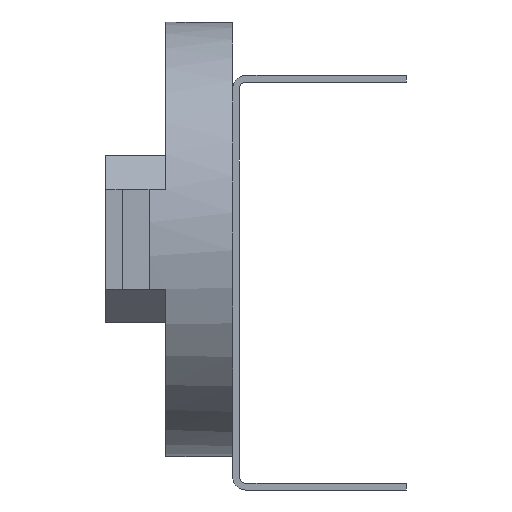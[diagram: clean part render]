
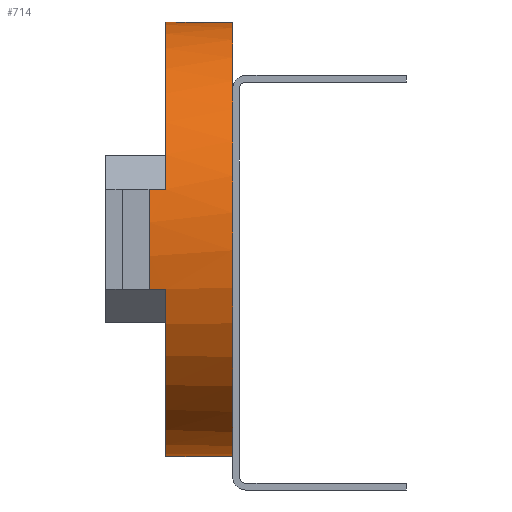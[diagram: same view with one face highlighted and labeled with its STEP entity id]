
A CAD part, left-side view. The second image highlights one B-rep face of the part: STEP entity #714.
In plain terms, the highlighted cylindrical face has radius 65 mm (diameter 130 mm), a partial arc.
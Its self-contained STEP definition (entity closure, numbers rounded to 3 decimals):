
#18 = CIRCLE ( 'NONE', #787, 65. ) ;
#34 = CARTESIAN_POINT ( 'NONE',  ( -123.246, 27., 28. ) ) ;
#39 = VECTOR ( 'NONE', #1031, 1000. ) ;
#41 = EDGE_CURVE ( 'NONE', #104, #112, #1221, .T. ) ;
#84 = AXIS2_PLACEMENT_3D ( 'NONE', #308, #829, #1348 ) ;
#100 = ORIENTED_EDGE ( 'NONE', *, *, #1010, .F. ) ;
#104 = VERTEX_POINT ( 'NONE', #978 ) ;
#106 = DIRECTION ( 'NONE',  ( 0., 0., 1. ) ) ;
#112 = VERTEX_POINT ( 'NONE', #354 ) ;
#113 = ORIENTED_EDGE ( 'NONE', *, *, #950, .F. ) ;
#124 = LINE ( 'NONE', #336, #789 ) ;
#136 = AXIS2_PLACEMENT_3D ( 'NONE', #758, #1082, #1245 ) ;
#170 = DIRECTION ( 'NONE',  ( 0., 0., 1. ) ) ;
#201 = VERTEX_POINT ( 'NONE', #447 ) ;
#219 = CARTESIAN_POINT ( 'NONE',  ( 0., 22., 38. ) ) ;
#225 = CARTESIAN_POINT ( 'NONE',  ( -123.246, 27., -2. ) ) ;
#250 = AXIS2_PLACEMENT_3D ( 'NONE', #1105, #1234, #170 ) ;
#252 = AXIS2_PLACEMENT_3D ( 'NONE', #1088, #495, #1214 ) ;
#269 = CARTESIAN_POINT ( 'NONE',  ( -123.246, 22., 28. ) ) ;
#286 = CIRCLE ( 'NONE', #1118, 65. ) ;
#308 = CARTESIAN_POINT ( 'NONE',  ( -60., 2., 13. ) ) ;
#318 = VERTEX_POINT ( 'NONE', #219 ) ;
#324 = DIRECTION ( 'NONE',  ( 0., 0., 1. ) ) ;
#336 = CARTESIAN_POINT ( 'NONE',  ( 0., 22., 38. ) ) ;
#354 = CARTESIAN_POINT ( 'NONE',  ( -123.246, 22., -2. ) ) ;
#362 = VERTEX_POINT ( 'NONE', #537 ) ;
#380 = LINE ( 'NONE', #34, #514 ) ;
#429 = CARTESIAN_POINT ( 'NONE',  ( -13.096, 2., 58. ) ) ;
#447 = CARTESIAN_POINT ( 'NONE',  ( -90., 2., -44.663 ) ) ;
#484 = ORIENTED_EDGE ( 'NONE', *, *, #506, .T. ) ;
#493 = LINE ( 'NONE', #738, #1392 ) ;
#495 = DIRECTION ( 'NONE',  ( 0., 1., 0. ) ) ;
#506 = EDGE_CURVE ( 'NONE', #644, #201, #18, .T. ) ;
#514 = VECTOR ( 'NONE', #1378, 1000. ) ;
#522 = CARTESIAN_POINT ( 'NONE',  ( -123.246, 27., -2. ) ) ;
#534 = DIRECTION ( 'NONE',  ( 0., -1., 0. ) ) ;
#537 = CARTESIAN_POINT ( 'NONE',  ( 0., 2., 38. ) ) ;
#548 = CARTESIAN_POINT ( 'NONE',  ( -60., 2., 13. ) ) ;
#577 = EDGE_CURVE ( 'NONE', #318, #362, #124, .T. ) ;
#586 = EDGE_CURVE ( 'NONE', #720, #734, #796, .T. ) ;
#601 = VERTEX_POINT ( 'NONE', #429 ) ;
#644 = VERTEX_POINT ( 'NONE', #1422 ) ;
#661 = EDGE_CURVE ( 'NONE', #601, #362, #1056, .T. ) ;
#685 = ORIENTED_EDGE ( 'NONE', *, *, #833, .T. ) ;
#691 = DIRECTION ( 'NONE',  ( 0., 1., 0. ) ) ;
#714 = ADVANCED_FACE ( 'NONE', ( #1307 ), #914, .T. ) ;
#720 = VERTEX_POINT ( 'NONE', #522 ) ;
#734 = VERTEX_POINT ( 'NONE', #778 ) ;
#738 = CARTESIAN_POINT ( 'NONE',  ( 0., 22., -12. ) ) ;
#758 = CARTESIAN_POINT ( 'NONE',  ( -60., 22., 13. ) ) ;
#778 = CARTESIAN_POINT ( 'NONE',  ( -123.246, 27., 28. ) ) ;
#787 = AXIS2_PLACEMENT_3D ( 'NONE', #548, #691, #106 ) ;
#789 = VECTOR ( 'NONE', #534, 1000. ) ;
#796 = CIRCLE ( 'NONE', #252, 65. ) ;
#829 = DIRECTION ( 'NONE',  ( 0., 1., 0. ) ) ;
#833 = EDGE_CURVE ( 'NONE', #104, #644, #493, .T. ) ;
#837 = VERTEX_POINT ( 'NONE', #269 ) ;
#856 = DIRECTION ( 'NONE',  ( 0., -1., 0. ) ) ;
#914 = CYLINDRICAL_SURFACE ( 'NONE', #944, 65. ) ;
#944 = AXIS2_PLACEMENT_3D ( 'NONE', #1302, #856, #1417 ) ;
#950 = EDGE_CURVE ( 'NONE', #837, #318, #1244, .T. ) ;
#978 = CARTESIAN_POINT ( 'NONE',  ( 0., 22., -12. ) ) ;
#1001 = CARTESIAN_POINT ( 'NONE',  ( -60., 2., 13. ) ) ;
#1010 = EDGE_CURVE ( 'NONE', #734, #837, #380, .T. ) ;
#1016 = LINE ( 'NONE', #225, #39 ) ;
#1031 = DIRECTION ( 'NONE',  ( 0., -1., 0. ) ) ;
#1047 = ORIENTED_EDGE ( 'NONE', *, *, #661, .T. ) ;
#1056 = CIRCLE ( 'NONE', #84, 65. ) ;
#1060 = ORIENTED_EDGE ( 'NONE', *, *, #1229, .T. ) ;
#1062 = ORIENTED_EDGE ( 'NONE', *, *, #41, .F. ) ;
#1082 = DIRECTION ( 'NONE',  ( 0., 1., 0. ) ) ;
#1088 = CARTESIAN_POINT ( 'NONE',  ( -60., 27., 13. ) ) ;
#1105 = CARTESIAN_POINT ( 'NONE',  ( -60., 22., 13. ) ) ;
#1118 = AXIS2_PLACEMENT_3D ( 'NONE', #1001, #1165, #324 ) ;
#1138 = ORIENTED_EDGE ( 'NONE', *, *, #1199, .T. ) ;
#1162 = DIRECTION ( 'NONE',  ( 0., -1., 0. ) ) ;
#1165 = DIRECTION ( 'NONE',  ( 0., 1., 0. ) ) ;
#1199 = EDGE_CURVE ( 'NONE', #720, #112, #1016, .T. ) ;
#1214 = DIRECTION ( 'NONE',  ( 0., 0., -1. ) ) ;
#1221 = CIRCLE ( 'NONE', #136, 65. ) ;
#1223 = ORIENTED_EDGE ( 'NONE', *, *, #577, .F. ) ;
#1229 = EDGE_CURVE ( 'NONE', #201, #601, #286, .T. ) ;
#1234 = DIRECTION ( 'NONE',  ( 0., 1., 0. ) ) ;
#1240 = ORIENTED_EDGE ( 'NONE', *, *, #586, .F. ) ;
#1244 = CIRCLE ( 'NONE', #250, 65. ) ;
#1245 = DIRECTION ( 'NONE',  ( 0., 0., 1. ) ) ;
#1302 = CARTESIAN_POINT ( 'NONE',  ( -60., 22., 13. ) ) ;
#1307 = FACE_OUTER_BOUND ( 'NONE', #1413, .T. ) ;
#1348 = DIRECTION ( 'NONE',  ( 0., 0., 1. ) ) ;
#1378 = DIRECTION ( 'NONE',  ( 0., -1., 0. ) ) ;
#1392 = VECTOR ( 'NONE', #1162, 1000. ) ;
#1413 = EDGE_LOOP ( 'NONE', ( #484, #1060, #1047, #1223, #113, #100, #1240, #1138, #1062, #685 ) ) ;
#1417 = DIRECTION ( 'NONE',  ( 0., 0., -1. ) ) ;
#1422 = CARTESIAN_POINT ( 'NONE',  ( 0., 2., -12. ) ) ;
